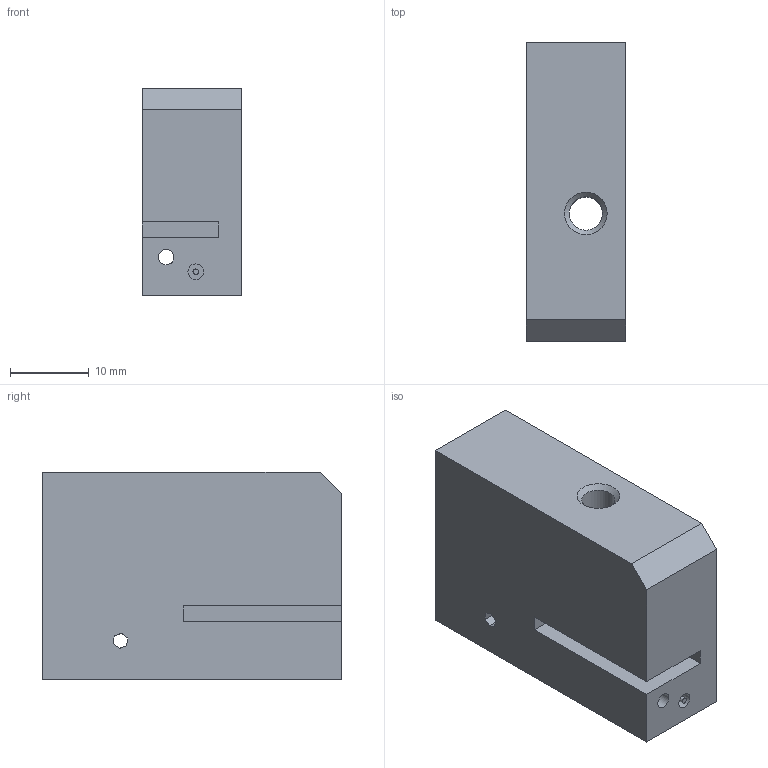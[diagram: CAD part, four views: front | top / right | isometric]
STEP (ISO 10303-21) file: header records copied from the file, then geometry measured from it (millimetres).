
FILE_DESCRIPTION(('Open CASCADE Model'),'2;1');
FILE_NAME('Open CASCADE Shape Model','2021-05-12T19:54:38',('Author'),( 'Open CASCADE'),'Open CASCADE STEP processor 7.4','Open CASCADE 7.4' ,'Unknown');
FILE_SCHEMA(('AUTOMOTIVE_DESIGN { 1 0 10303 214 1 1 1 1 }'));
Length unit declared in the file: millimetre
Products named in the file (1): Open CASCADE STEP translator 7.4 726
Bounding box: 12.61 x 37.99 x 26.4 mm (x, y, z)
Volume: 11680.9 mm3; surface area: 4650.9 mm2
Topology: 1 solids, 1 shells, 29 faces, 77 edges, 51 vertices
Faces by surface type: plane 23, cylinder 5, cone 1
Full cylindrical faces by diameter (mm): 0.719 x1, 2 x2, 4.235 x2
Entity records: 1988 total; most frequent: CARTESIAN_POINT 434, DIRECTION 281, LINE 166, VECTOR 166, ORIENTED_EDGE 154, PCURVE 154, DEFINITIONAL_REPRESENTATION 154, EDGE_CURVE 77
